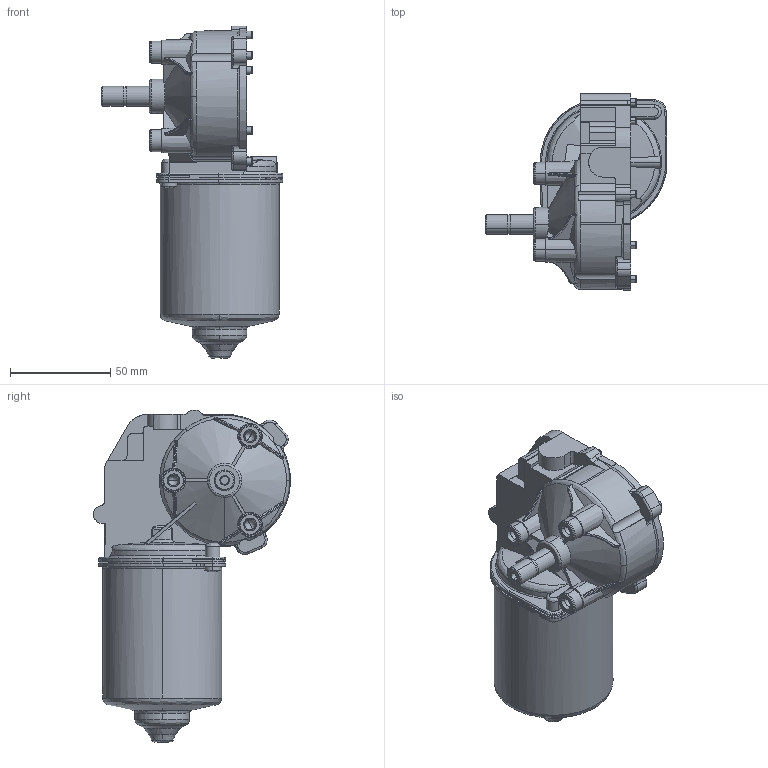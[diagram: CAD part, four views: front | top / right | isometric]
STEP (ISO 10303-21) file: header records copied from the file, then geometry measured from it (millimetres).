
FILE_DESCRIPTION (( 'STEP AP214' ), '1' );
FILE_NAME ('404867.step', '2018-03-15T08:08:10', ( '' ), ( '' ), 'SwSTEP 2.0', 'SolidWorks 2010', '' );
FILE_SCHEMA (( 'AUTOMOTIVE_DESIGN' ));
Length unit declared in the file: millimetre
Products named in the file (3): Motor-DCK31-Right-KGK; Shaft-W304-KGK; 404867
Assembly tree (2 placements, depth 2):
  404867
    Shaft-W304-KGK
    Motor-DCK31-Right-KGK
Bounding box: 90.5 x 98.03 x 165.2 mm (x, y, z)
Volume: 223961.7 mm3; surface area: 67935.5 mm2
Topology: 2 solids, 4 shells, 610 faces, 1756 edges, 1169 vertices
Faces by surface type: plane 176, cylinder 174, bspline 167, cone 93
Entity records: 33420 total; most frequent: CARTESIAN_POINT 19426, ORIENTED_EDGE 3486, DIRECTION 2077, EDGE_CURVE 1743, VERTEX_POINT 1169, B_SPLINE_CURVE_WITH_KNOTS 871, AXIS2_PLACEMENT_3D 798, EDGE_LOOP 650
